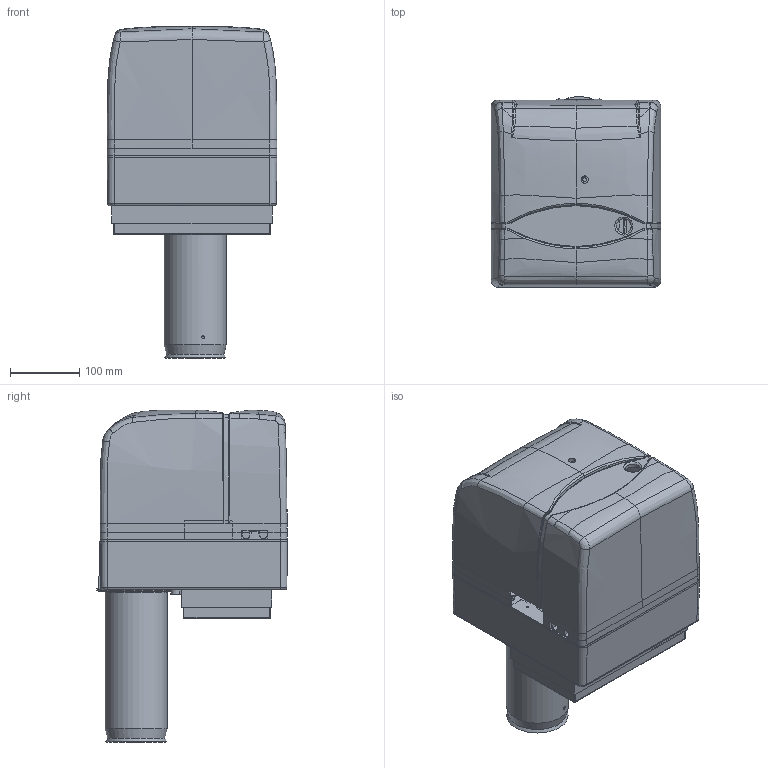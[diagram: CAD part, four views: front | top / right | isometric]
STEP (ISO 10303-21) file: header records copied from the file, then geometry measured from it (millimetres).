
FILE_DESCRIPTION (( 'STEP AP203' ), '1' );
FILE_NAME ('35530010_BTL10.STEP', '2017-07-13T07:04:35', ( '' ), ( '' ), 'SwSTEP 2.0', 'SolidWorks 2016', '' );
FILE_SCHEMA (( 'CONFIG_CONTROL_DESIGN' ));
Length unit declared in the file: millimetre
Products named in the file (1): 35530010_BTL10
Bounding box: 245.4 x 275.73 x 480.26 mm (x, y, z)
Surface area: 790766 mm2 (no closed solid volume)
Topology: 0 solids, 20 shells, 747 faces, 3078 edges, 2234 vertices
Faces by surface type: plane 357, bspline 172, cone 116, cylinder 101, torus 1
Full cylindrical faces by diameter (mm): 2.7 x2, 4.2 x2, 6 x2, 6.2 x1, 10.5 x1, 21 x1, 86 x1, 90 x1
Entity records: 72261 total; most frequent: CARTESIAN_POINT 50621, ORIENTED_EDGE 4719, EDGE_CURVE 3046, DIRECTION 3040, VERTEX_POINT 2230, LINE 1578, VECTOR 1578, B_SPLINE_CURVE_WITH_KNOTS 1226
